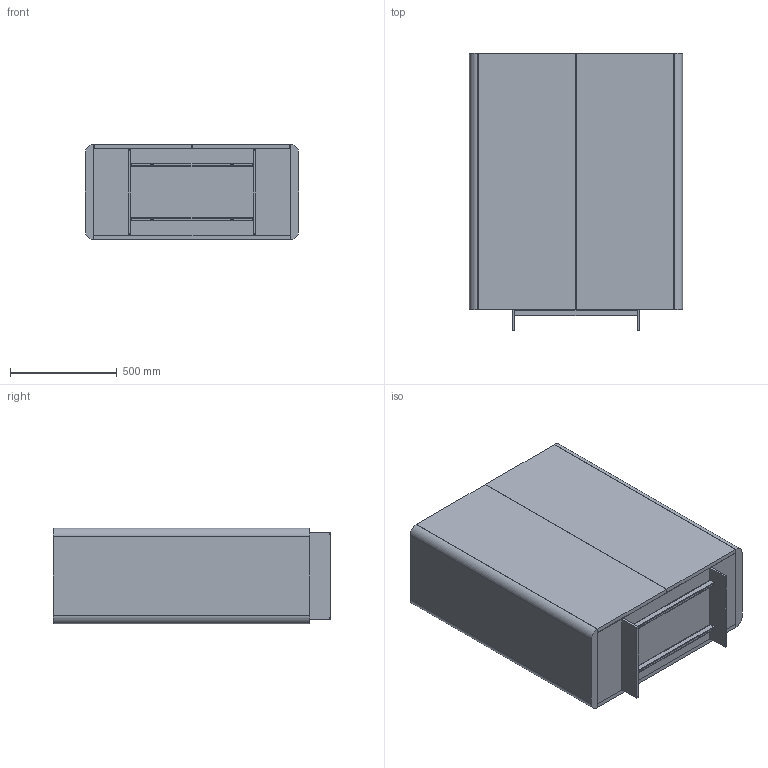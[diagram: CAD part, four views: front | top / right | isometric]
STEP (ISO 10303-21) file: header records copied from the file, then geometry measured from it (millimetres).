
FILE_DESCRIPTION (( 'STEP AP203' ), '1' );
FILE_NAME ('AL3LW_Alma_100x45x130h_Top Wood.IGS.STEP', '2024-08-06T08:05:43', ( '' ), ( '' ), 'SwSTEP 2.0', 'SolidWorks 2022', '' );
FILE_SCHEMA (( 'CONFIG_CONTROL_DESIGN' ));
Length unit declared in the file: millimetre
Products named in the file (5): AL00000X-02-BASE MADIA ALMA METALLO_AL000055-BASE L110cm<A macchina>; WxxxX45-00-Piani Madie in legno_W110x45; ALC00003-03-CONTENITORE MADIA ALMA L100_ALMA L100 IN PELLE; brugola_4; AL3LW_Alma_100x45x130h_Top Wood.IGS
Assembly tree (4 placements, depth 2):
  AL3LW_Alma_100x45x130h_Top Wood.IGS
    AL00000X-02-BASE MADIA ALMA METALLO_AL000055-BASE L110cm<A macchina>
    ALC00003-03-CONTENITORE MADIA ALMA L100_ALMA L100 IN PELLE
    WxxxX45-00-Piani Madie in legno_W110x45
    brugola_4
Bounding box: 1000 x 1303 x 450 mm (x, y, z)
Volume: 113165535.2 mm3; surface area: 11230029 mm2
Topology: 15 solids, 15 shells, 217 faces, 554 edges, 349 vertices
Faces by surface type: plane 113, cylinder 70, cone 34
Entity records: 7125 total; most frequent: CARTESIAN_POINT 1319, DIRECTION 1120, ORIENTED_EDGE 1072, EDGE_CURVE 536, AXIS2_PLACEMENT_3D 380, VECTOR 360, LINE 360, VERTEX_POINT 349
